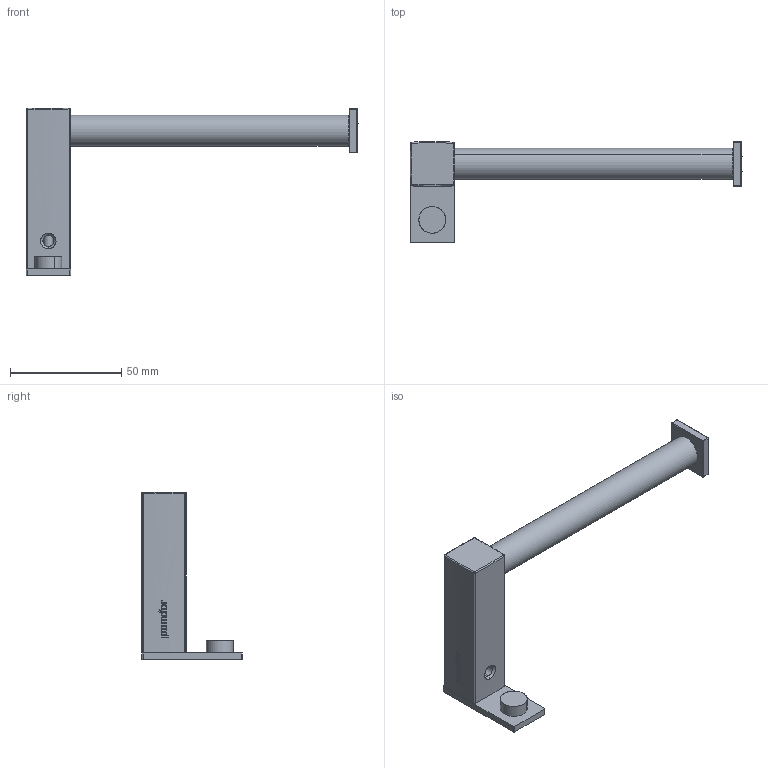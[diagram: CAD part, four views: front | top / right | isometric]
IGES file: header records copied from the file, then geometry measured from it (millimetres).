
Start section: SolidWorks IGES file using analytic representation for surfaces
Global section: file name: G:\Projects\New project\For Marketing\IGS\IGS\2015-12-4\384002002VW.IGS; native system: SolidWorks 2010; preprocessor: SolidWorks 2010; author: weijuan; date: 151201.163923; units: inch
Bounding box: 148.95 x 45.1 x 75 mm (x, y, z)
Surface area: 16634.2 mm2 (no closed solid volume)
Topology: 0 solids, 0 shells, 124 faces, 1171 edges, 1163 vertices
Faces by surface type: revolution 62, bspline 62
